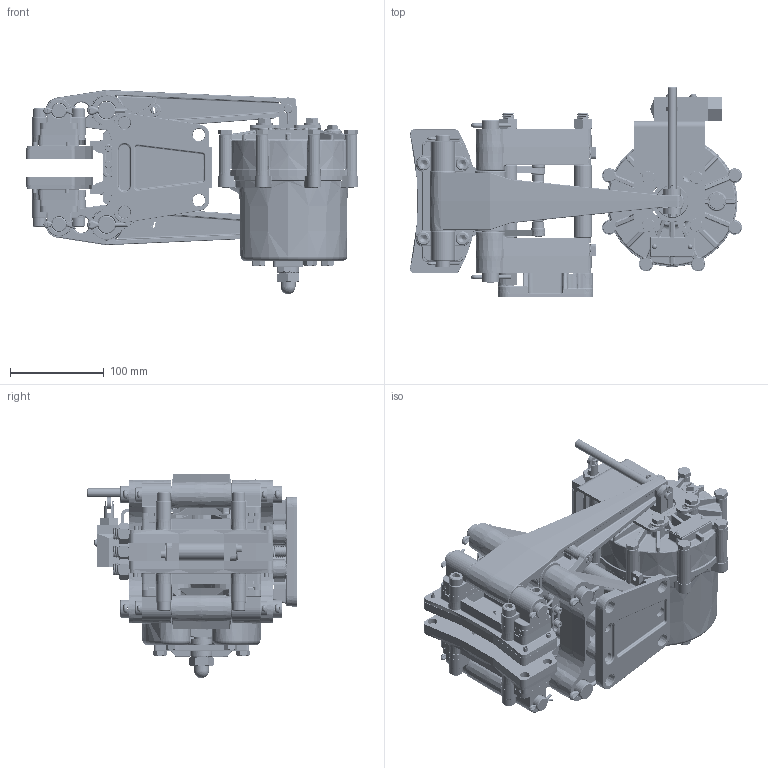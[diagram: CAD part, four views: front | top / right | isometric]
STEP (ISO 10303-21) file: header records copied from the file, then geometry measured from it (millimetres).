
FILE_DESCRIPTION (( 'STEP AP203' ), '1' );
FILE_NAME ('5020-SA90-RH-075-LS.STEP', '2026-02-18T23:39:31', ( '' ), ( '' ), 'SwSTEP 2.0', 'SolidWorks 2023', '' );
FILE_SCHEMA (( 'CONFIG_CONTROL_DESIGN' ));
Length unit declared in the file: inch
Products named in the file (1): 5020-SA90-RH-075-LS
Bounding box: 354.2 x 224.28 x 217.96 mm (x, y, z)
Surface area: 627146.6 mm2 (no closed solid volume)
Topology: 0 solids, 187 shells, 3587 faces, 11381 edges, 7585 vertices
Faces by surface type: plane 1074, cylinder 1025, cone 611, bspline 424, torus 418, sphere 35
Entity records: 157111 total; most frequent: CARTESIAN_POINT 63496, DIRECTION 19210, ORIENTED_EDGE 18240, EDGE_CURVE 11308, VERTEX_POINT 7585, AXIS2_PLACEMENT_3D 7490, CIRCLE 4326, LINE 4230
